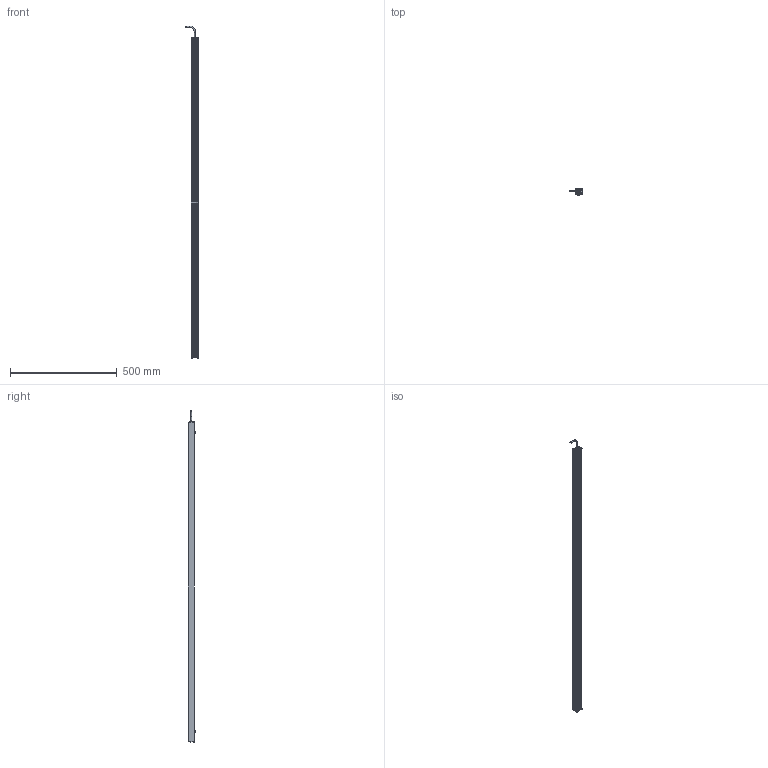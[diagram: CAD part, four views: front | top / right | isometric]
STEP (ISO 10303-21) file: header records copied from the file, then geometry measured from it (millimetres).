
FILE_DESCRIPTION (( 'STEP AP214' ), '1' );
FILE_NAME ('AL150XXXX_AL150342.stp', '2021-04-29T15:41:46', ( '' ), ( '' ), 'SwSTEP 2.0', 'SolidWorks 2018', '' );
FILE_SCHEMA (( 'AUTOMOTIVE_DESIGN' ));
Length unit declared in the file: inch
Products named in the file (12): 1157 (no strap); 150-01-005-XXX_150-01-005-342; 093145_93701A253; CHM6x8_91460A312; Part1^AL150XXXX; 116-02-007; AL150XXXX_AL150342; 116-02-006; 150-03-006-XXXX_150-03-006-342; 092408_TRUNCATED; HN-M6_90592A016; Part2^AL150XXXX
Assembly tree (18 placements, depth 2):
  Part1^AL150XXXX
  AL150XXXX_AL150342
    150-01-005-XXX_150-01-005-342
    116-02-006
    093145_93701A253  x8
    HN-M6_90592A016  x2
    CHM6x8_91460A312  x2
    150-03-006-XXXX_150-03-006-342
    116-02-007
    1157 (no strap)
    092408_TRUNCATED
  Part2^AL150XXXX
Bounding box: 60.68 x 33.84 x 1552.63 mm (x, y, z)
Volume: 463861.9 mm3; surface area: 490380.7 mm2
Topology: 26 solids, 26 shells, 1306 faces, 3436 edges, 2127 vertices
Faces by surface type: cylinder 805, cone 249, plane 153, torus 59, bspline 32, sphere 8
Entity records: 18285 total; most frequent: CARTESIAN_POINT 6069, ORIENTED_EDGE 2496, DIRECTION 2311, EDGE_CURVE 1248, AXIS2_PLACEMENT_3D 881, VERTEX_POINT 800, LINE 549, VECTOR 549
